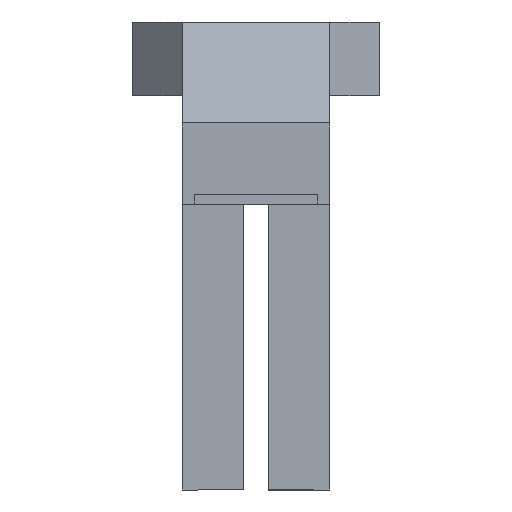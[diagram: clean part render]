
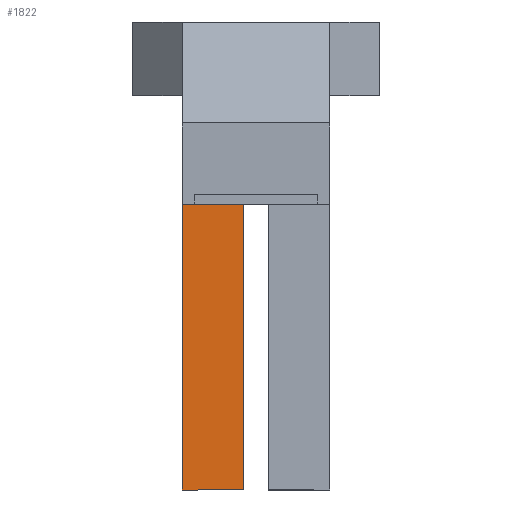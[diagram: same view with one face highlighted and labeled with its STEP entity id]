
A CAD part, left-side view. The second image highlights one B-rep face of the part: STEP entity #1822.
In plain terms, the highlighted planar face has unit normal (-1, 0, 0).
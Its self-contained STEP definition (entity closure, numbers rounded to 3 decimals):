
#52 = EDGE_LOOP ( 'NONE', ( #564, #174, #570, #805 ) ) ;
#62 = LINE ( 'NONE', #1092, #366 ) ;
#110 = LINE ( 'NONE', #1868, #1669 ) ;
#174 = ORIENTED_EDGE ( 'NONE', *, *, #1754, .F. ) ;
#186 = VECTOR ( 'NONE', #286, 1000. ) ;
#286 = DIRECTION ( 'NONE',  ( 0., 1., 0. ) ) ;
#294 = CARTESIAN_POINT ( 'NONE',  ( -57., -37.5, 10.5 ) ) ;
#305 = VERTEX_POINT ( 'NONE', #1011 ) ;
#365 = DIRECTION ( 'NONE',  ( 0., 0., 1. ) ) ;
#366 = VECTOR ( 'NONE', #1563, 1000. ) ;
#377 = DIRECTION ( 'NONE',  ( 0., 0., -1. ) ) ;
#394 = LINE ( 'NONE', #1420, #1763 ) ;
#408 = PLANE ( 'NONE',  #1451 ) ;
#444 = EDGE_CURVE ( 'NONE', #1802, #949, #1791, .T. ) ;
#564 = ORIENTED_EDGE ( 'NONE', *, *, #1461, .F. ) ;
#570 = ORIENTED_EDGE ( 'NONE', *, *, #444, .T. ) ;
#672 = FACE_OUTER_BOUND ( 'NONE', #52, .T. ) ;
#731 = CARTESIAN_POINT ( 'NONE',  ( -57., -37.5, 10.5 ) ) ;
#750 = DIRECTION ( 'NONE',  ( 1., 0., 0. ) ) ;
#805 = ORIENTED_EDGE ( 'NONE', *, *, #1540, .F. ) ;
#949 = VERTEX_POINT ( 'NONE', #1066 ) ;
#1011 = CARTESIAN_POINT ( 'NONE',  ( -57., 2.5, -47.5 ) ) ;
#1066 = CARTESIAN_POINT ( 'NONE',  ( -57., 15., 10.5 ) ) ;
#1092 = CARTESIAN_POINT ( 'NONE',  ( -57., -37.5, -47.5 ) ) ;
#1125 = CARTESIAN_POINT ( 'NONE',  ( -57., 2.5, 10.5 ) ) ;
#1226 = VERTEX_POINT ( 'NONE', #1665 ) ;
#1420 = CARTESIAN_POINT ( 'NONE',  ( -57., 2.5, -47.5 ) ) ;
#1451 = AXIS2_PLACEMENT_3D ( 'NONE', #294, #750, #1941 ) ;
#1461 = EDGE_CURVE ( 'NONE', #305, #1226, #62, .T. ) ;
#1540 = EDGE_CURVE ( 'NONE', #1226, #949, #110, .T. ) ;
#1563 = DIRECTION ( 'NONE',  ( 0., 1., 0. ) ) ;
#1665 = CARTESIAN_POINT ( 'NONE',  ( -57., 15., -47.5 ) ) ;
#1669 = VECTOR ( 'NONE', #365, 1000. ) ;
#1754 = EDGE_CURVE ( 'NONE', #1802, #305, #394, .T. ) ;
#1763 = VECTOR ( 'NONE', #377, 1000. ) ;
#1791 = LINE ( 'NONE', #731, #186 ) ;
#1802 = VERTEX_POINT ( 'NONE', #1125 ) ;
#1822 = ADVANCED_FACE ( 'NONE', ( #672 ), #408, .F. ) ;
#1868 = CARTESIAN_POINT ( 'NONE',  ( -57., 15., 47.5 ) ) ;
#1941 = DIRECTION ( 'NONE',  ( 0., 0., -1. ) ) ;
